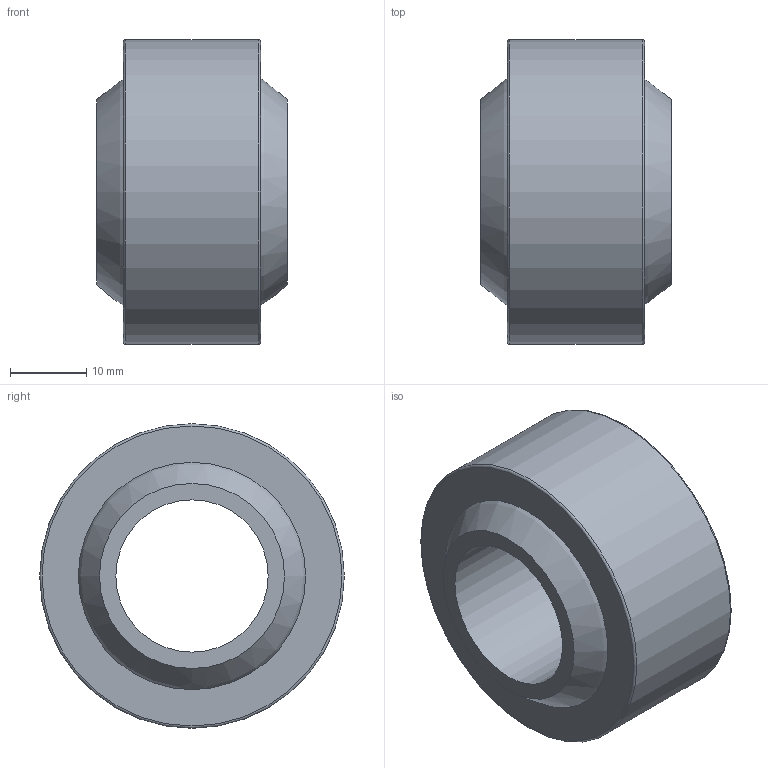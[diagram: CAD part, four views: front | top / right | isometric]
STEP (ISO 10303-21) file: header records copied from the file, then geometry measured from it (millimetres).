
FILE_DESCRIPTION( ( 'STEP AP203' ), '1' );
FILE_NAME( 'C:/Temp/Ganter_Step_05_03_2020/data/3_6/gn_648_8/gn_648_8_w/Ball joint GN 648.8-20-40-W.stp', '2020-03-12T14:14:32', ( 'License CC BY-ND 4.0' ), ( 'CADENAS' ), ' ', 'PARTsolutions', ' ' );
FILE_SCHEMA( ( 'CONFIG_CONTROL_DESIGN' ) );
Length unit declared in the file: millimetre
Products named in the file (3): Ball joint GN 648.8-20-40-W; _Ball joint GN 648.8-20-40-W-2; _Ball joint GN 648.8-20-40-W-1
Assembly tree (2 placements, depth 2):
  Ball joint GN 648.8-20-40-W
    _Ball joint GN 648.8-20-40-W-2
    _Ball joint GN 648.8-20-40-W-1
Bounding box: 25 x 40 x 40 mm (x, y, z)
Volume: 18877.9 mm3; surface area: 9921.6 mm2
Topology: 2 solids, 2 shells, 10 faces, 16 edges, 10 vertices
Faces by surface type: plane 4, sphere 2, torus 2, cylinder 2
Full cylindrical faces by diameter (mm): 20 x1, 40 x1
Entity records: 320 total; most frequent: DIRECTION 46, CARTESIAN_POINT 33, AXIS2_PLACEMENT_3D 23, EDGE_LOOP 20, ORIENTED_EDGE 20, FACE_OUTER_BOUND 16, CC_DESIGN_PERSON_AND_ORGANIZATION_ASSIGNMENT 13, ADVANCED_FACE 10
